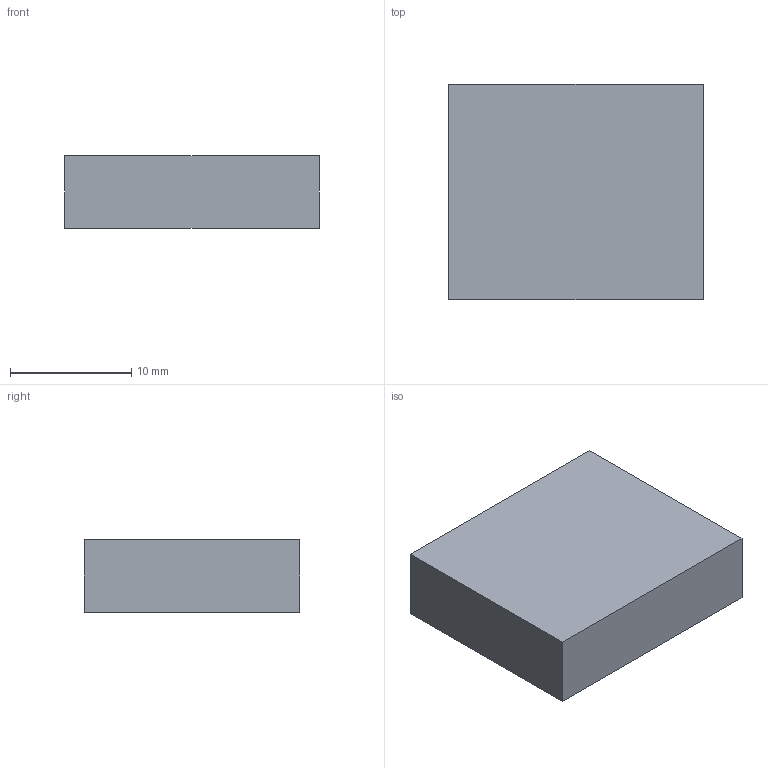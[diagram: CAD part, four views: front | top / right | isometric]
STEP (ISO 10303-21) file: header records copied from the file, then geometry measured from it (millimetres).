
FILE_DESCRIPTION(('Open CASCADE Model'),'2;1');
FILE_NAME('Open CASCADE Shape Model','2026-10-06T03:35:42',('Author'),( 'Open CASCADE'),'Open CASCADE STEP processor 7.8','Open CASCADE 7.8' ,'Unknown');
FILE_SCHEMA(('AUTOMOTIVE_DESIGN { 1 0 10303 214 1 1 1 1 }'));
Length unit declared in the file: millimetre
Products named in the file (1): Open CASCADE STEP translator 7.8 18
Bounding box: 21 x 17.8 x 6 mm (x, y, z)
Volume: 2242.8 mm3; surface area: 1213.2 mm2
Topology: 1 solids, 1 shells, 6 faces, 12 edges, 8 vertices
Faces by surface type: plane 6
Entity records: 322 total; most frequent: CARTESIAN_POINT 51, DIRECTION 50, LINE 36, VECTOR 36, ORIENTED_EDGE 24, PCURVE 24, DEFINITIONAL_REPRESENTATION 24, EDGE_CURVE 12
